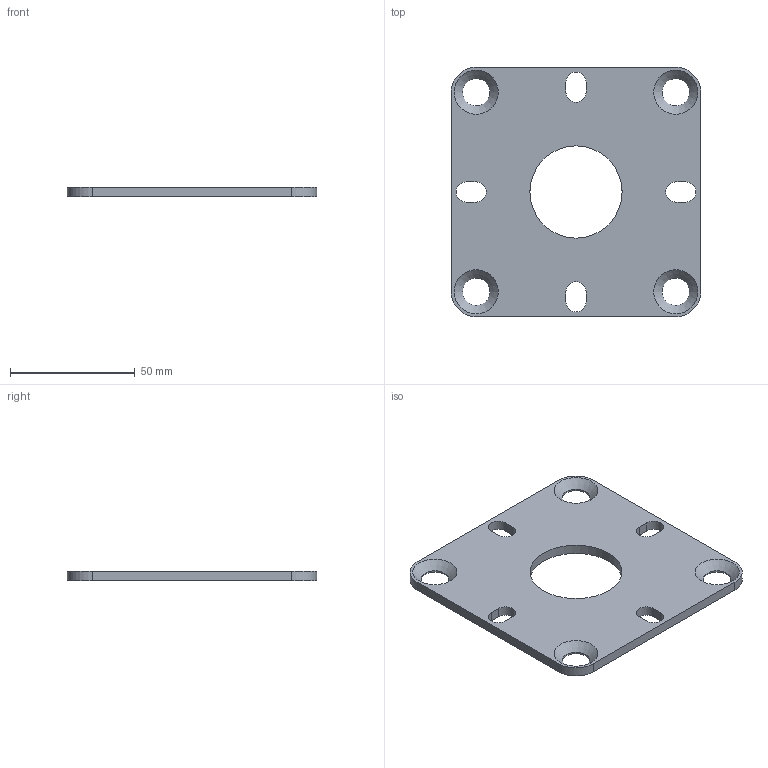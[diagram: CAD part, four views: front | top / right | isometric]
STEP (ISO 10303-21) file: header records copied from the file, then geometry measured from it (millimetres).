
FILE_DESCRIPTION(/* description */ ('MOTOR PLATE '),/* implementation_level */ '2;1');
FILE_NAME(/* name */ '500-3076.stp',/* time_stamp */ '2022-09-22T08:44:51+02:00',/* author */ ('PL'),/* organization */ ('CARRYLINE'),/* preprocessor_version */ 'ST-DEVELOPER v19.2',/* originating_system */ 'Autodesk Inventor 2023',/* authorisation */ '');
FILE_SCHEMA (('AUTOMOTIVE_DESIGN { 1 0 10303 214 3 1 1 }'));
Length unit declared in the file: millimetre
Products named in the file (1): 500-3076
Bounding box: 100 x 100 x 4 mm (x, y, z)
Volume: 31559.3 mm3; surface area: 19117.7 mm2
Topology: 1 solids, 1 shells, 35 faces, 95 edges, 62 vertices
Faces by surface type: cylinder 17, plane 14, cone 4
Full cylindrical faces by diameter (mm): 11 x4, 37 x1
Entity records: 1194 total; most frequent: DIRECTION 205, CARTESIAN_POINT 193, ORIENTED_EDGE 190, EDGE_CURVE 95, AXIS2_PLACEMENT_3D 74, VERTEX_POINT 62, LINE 57, VECTOR 57
